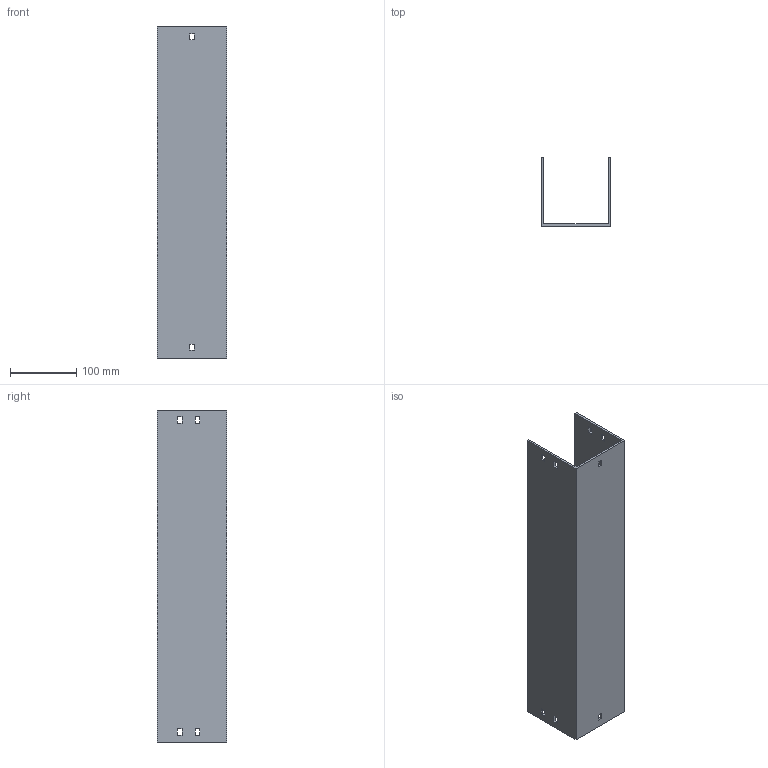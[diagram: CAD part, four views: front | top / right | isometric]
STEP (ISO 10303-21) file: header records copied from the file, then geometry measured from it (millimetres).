
FILE_DESCRIPTION (( 'STEP AP214' ), '1' );
FILE_NAME ('03F7D100.step', '2025-02-21T13:16:36', ( '' ), ( '' ), 'SwSTEP 2.0', 'SolidWorks 2023', '' );
FILE_SCHEMA (( 'AUTOMOTIVE_DESIGN' ));
Length unit declared in the file: millimetre
Products named in the file (1): 03F7D100
Bounding box: 104 x 104 x 500 mm (x, y, z)
Volume: 531380.5 mm3; surface area: 310450 mm2
Topology: 1 solids, 1 shells, 50 faces, 144 edges, 96 vertices
Faces by surface type: plane 50
Entity records: 1671 total; most frequent: CARTESIAN_POINT 291, ORIENTED_EDGE 288, DIRECTION 246, LINE 144, VECTOR 144, EDGE_CURVE 144, VERTEX_POINT 96, EDGE_LOOP 70
